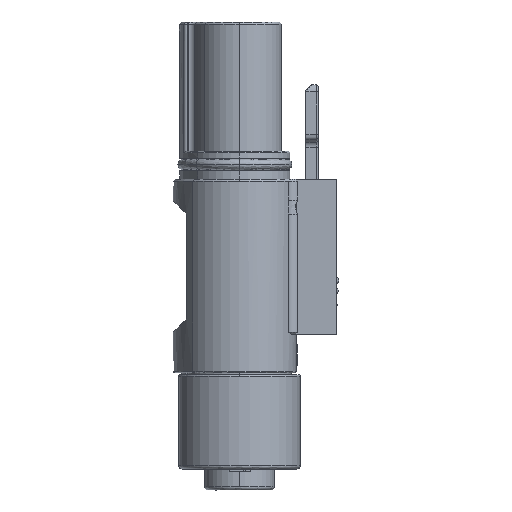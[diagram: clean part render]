
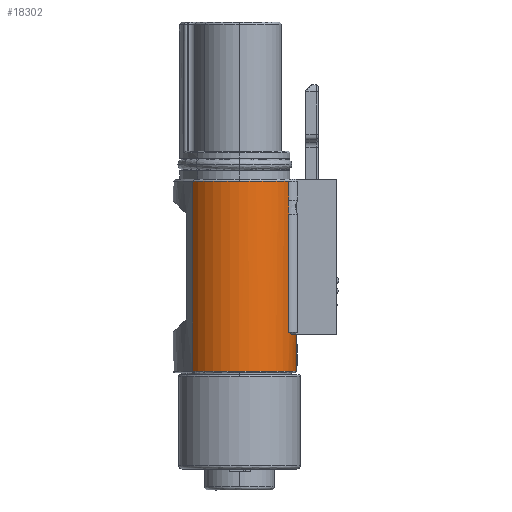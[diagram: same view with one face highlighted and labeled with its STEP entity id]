
A CAD part, left-side view. The second image highlights one B-rep face of the part: STEP entity #18302.
In plain terms, the highlighted cylindrical face has radius 8.1 mm (diameter 16.2 mm), a partial arc.
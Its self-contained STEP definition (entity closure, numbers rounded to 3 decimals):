
#7 = CARTESIAN_POINT ( 'NONE',  ( -14.41, -6., -30.9 ) ) ;
#48 = DIRECTION ( 'NONE',  ( 0., 0., -1. ) ) ;
#375 = VERTEX_POINT ( 'NONE', #16559 ) ;
#511 = CARTESIAN_POINT ( 'NONE',  ( -10.402, -7.061, -70.017 ) ) ;
#774 = ORIENTED_EDGE ( 'NONE', *, *, #18330, .F. ) ;
#917 = ORIENTED_EDGE ( 'NONE', *, *, #14548, .T. ) ;
#1698 = B_SPLINE_CURVE_WITH_KNOTS ( 'NONE', 3,
 ( #2918, #11914, #10377, #13423, #4395, #14944 ),
 .UNSPECIFIED., .F., .F.,
 ( 4, 2, 4 ),
 ( 0., 0., 0.001 ),
 .UNSPECIFIED. ) ;
#1718 = CARTESIAN_POINT ( 'NONE',  ( -10.402, 1.039, -9.3 ) ) ;
#1727 = CARTESIAN_POINT ( 'NONE',  ( -10.402, 1.039, -31.2 ) ) ;
#1925 = CARTESIAN_POINT ( 'NONE',  ( -14.378, -6.018, -13.275 ) ) ;
#1964 = EDGE_CURVE ( 'NONE', #18601, #5971, #13059, .T. ) ;
#2019 = EDGE_LOOP ( 'NONE', ( #18996, #12140, #15679, #774, #15317, #17947, #19414, #18919, #917, #16094, #5948, #11248 ) ) ;
#2348 = VERTEX_POINT ( 'NONE', #19039 ) ;
#2918 = CARTESIAN_POINT ( 'NONE',  ( -13.592, -6.407, -31.2 ) ) ;
#3226 = DIRECTION ( 'NONE',  ( 1., 0., 0. ) ) ;
#3234 = DIRECTION ( 'NONE',  ( 1., 0., 0. ) ) ;
#3265 = CIRCLE ( 'NONE', #3318, 8.1 ) ;
#3318 = AXIS2_PLACEMENT_3D ( 'NONE', #13686, #4654, #15191 ) ;
#3426 = CARTESIAN_POINT ( 'NONE',  ( -14.371, -6.022, -12.891 ) ) ;
#3738 = VERTEX_POINT ( 'NONE', #9053 ) ;
#3805 = EDGE_CURVE ( 'NONE', #7233, #17610, #3816, .T. ) ;
#3816 = LINE ( 'NONE', #7827, #11322 ) ;
#4395 = CARTESIAN_POINT ( 'NONE',  ( -14.267, -6.082, -30.9 ) ) ;
#4654 = DIRECTION ( 'NONE',  ( 0., 0., -1. ) ) ;
#4874 = AXIS2_PLACEMENT_3D ( 'NONE', #9035, #48, #10522 ) ;
#4907 = CARTESIAN_POINT ( 'NONE',  ( -14.404, -6.004, -12.286 ) ) ;
#4950 = CARTESIAN_POINT ( 'NONE',  ( -10.402, 1.039, -9.3 ) ) ;
#5025 = DIRECTION ( 'NONE',  ( 0., 0., 1. ) ) ;
#5286 = CIRCLE ( 'NONE', #14837, 8.1 ) ;
#5397 = VECTOR ( 'NONE', #12120, 1000. ) ;
#5448 = CARTESIAN_POINT ( 'NONE',  ( -14.958, 7.736, -36.5 ) ) ;
#5613 = EDGE_CURVE ( 'NONE', #2348, #5795, #13383, .T. ) ;
#5626 = AXIS2_PLACEMENT_3D ( 'NONE', #4950, #15476, #6461 ) ;
#5795 = VERTEX_POINT ( 'NONE', #6073 ) ;
#5845 = DIRECTION ( 'NONE',  ( 0., 0., -1. ) ) ;
#5870 = LINE ( 'NONE', #511, #6321 ) ;
#5948 = ORIENTED_EDGE ( 'NONE', *, *, #13630, .T. ) ;
#5971 = VERTEX_POINT ( 'NONE', #6797 ) ;
#6073 = CARTESIAN_POINT ( 'NONE',  ( -18.502, 1.039, -36.5 ) ) ;
#6321 = VECTOR ( 'NONE', #8018, 1000. ) ;
#6410 = CARTESIAN_POINT ( 'NONE',  ( -14.41, -6., -12.011 ) ) ;
#6461 = DIRECTION ( 'NONE',  ( 1., 0., 0. ) ) ;
#6720 = EDGE_CURVE ( 'NONE', #7416, #10515, #1698, .T. ) ;
#6797 = CARTESIAN_POINT ( 'NONE',  ( -14.958, 7.736, -9.3 ) ) ;
#7073 = VERTEX_POINT ( 'NONE', #5448 ) ;
#7233 = VERTEX_POINT ( 'NONE', #10494 ) ;
#7416 = VERTEX_POINT ( 'NONE', #16867 ) ;
#7464 = CIRCLE ( 'NONE', #5626, 8.1 ) ;
#7827 = CARTESIAN_POINT ( 'NONE',  ( -14.41, -6., -79.345 ) ) ;
#8018 = DIRECTION ( 'NONE',  ( 0., 0., 1. ) ) ;
#8138 = CARTESIAN_POINT ( 'NONE',  ( -14.958, 7.736, -79.345 ) ) ;
#8605 = CARTESIAN_POINT ( 'NONE',  ( -18.502, 1.039, -9.3 ) ) ;
#9035 = CARTESIAN_POINT ( 'NONE',  ( -10.402, 1.039, -36.5 ) ) ;
#9053 = CARTESIAN_POINT ( 'NONE',  ( -10.402, -7.061, -31.2 ) ) ;
#9118 = VERTEX_POINT ( 'NONE', #17170 ) ;
#9159 = CARTESIAN_POINT ( 'NONE',  ( -14.41, -6., -79.345 ) ) ;
#9385 = CARTESIAN_POINT ( 'NONE',  ( -14.41, -6., -13.989 ) ) ;
#10377 = CARTESIAN_POINT ( 'NONE',  ( -13.851, -6.292, -31.042 ) ) ;
#10494 = CARTESIAN_POINT ( 'NONE',  ( -14.41, -6., -12.011 ) ) ;
#10515 = VERTEX_POINT ( 'NONE', #7 ) ;
#10522 = DIRECTION ( 'NONE',  ( -1., 0., 0. ) ) ;
#10646 = EDGE_CURVE ( 'NONE', #17610, #18601, #7464, .T. ) ;
#10892 = CARTESIAN_POINT ( 'NONE',  ( -14.404, -6.004, -13.714 ) ) ;
#11248 = ORIENTED_EDGE ( 'NONE', *, *, #16701, .T. ) ;
#11249 = VECTOR ( 'NONE', #17118, 1000. ) ;
#11322 = VECTOR ( 'NONE', #12330, 1000. ) ;
#11914 = CARTESIAN_POINT ( 'NONE',  ( -13.72, -6.352, -31.116 ) ) ;
#11934 = AXIS2_PLACEMENT_3D ( 'NONE', #14842, #5845, #16343 ) ;
#12120 = DIRECTION ( 'NONE',  ( 0., 0., 1. ) ) ;
#12140 = ORIENTED_EDGE ( 'NONE', *, *, #10646, .T. ) ;
#12206 = DIRECTION ( 'NONE',  ( 0., 0., -1. ) ) ;
#12213 = DIRECTION ( 'NONE',  ( 0., 0., -1. ) ) ;
#12330 = DIRECTION ( 'NONE',  ( 0., 0., 1. ) ) ;
#12414 = CARTESIAN_POINT ( 'NONE',  ( -14.371, -6.022, -13.11 ) ) ;
#13059 = CIRCLE ( 'NONE', #14323, 8.1 ) ;
#13383 = CIRCLE ( 'NONE', #4874, 8.1 ) ;
#13423 = CARTESIAN_POINT ( 'NONE',  ( -14.122, -6.158, -30.934 ) ) ;
#13630 = EDGE_CURVE ( 'NONE', #10515, #9118, #16910, .T. ) ;
#13686 = CARTESIAN_POINT ( 'NONE',  ( -10.402, 1.039, -36.5 ) ) ;
#13927 = CARTESIAN_POINT ( 'NONE',  ( -14.378, -6.018, -12.726 ) ) ;
#14062 = EDGE_CURVE ( 'NONE', #5795, #7073, #3265, .T. ) ;
#14075 = B_SPLINE_CURVE_WITH_KNOTS ( 'NONE', 3,
 ( #9385, #18394, #10892, #1925, #12414, #3426, #13927, #4907, #15441, #6410 ),
 .UNSPECIFIED., .F., .F.,
 ( 4, 2, 2, 2, 4 ),
 ( 0., 0.25, 0.5, 0.75, 1. ),
 .UNSPECIFIED. ) ;
#14103 = DIRECTION ( 'NONE',  ( 1., 0., 0. ) ) ;
#14323 = AXIS2_PLACEMENT_3D ( 'NONE', #1718, #12206, #3226 ) ;
#14548 = EDGE_CURVE ( 'NONE', #375, #7416, #15214, .T. ) ;
#14837 = AXIS2_PLACEMENT_3D ( 'NONE', #1727, #12213, #3234 ) ;
#14842 = CARTESIAN_POINT ( 'NONE',  ( -10.402, 1.039, -31.2 ) ) ;
#14944 = CARTESIAN_POINT ( 'NONE',  ( -14.41, -6., -30.9 ) ) ;
#15065 = EDGE_CURVE ( 'NONE', #3738, #375, #5286, .T. ) ;
#15184 = EDGE_CURVE ( 'NONE', #2348, #3738, #5870, .T. ) ;
#15191 = DIRECTION ( 'NONE',  ( -1., 0., 0. ) ) ;
#15214 = CIRCLE ( 'NONE', #11934, 8.1 ) ;
#15247 = CYLINDRICAL_SURFACE ( 'NONE', #16651, 8.1 ) ;
#15317 = ORIENTED_EDGE ( 'NONE', *, *, #14062, .F. ) ;
#15441 = CARTESIAN_POINT ( 'NONE',  ( -14.41, -6., -12.121 ) ) ;
#15476 = DIRECTION ( 'NONE',  ( 0., 0., -1. ) ) ;
#15539 = CARTESIAN_POINT ( 'NONE',  ( -10.402, 1.039, -79.345 ) ) ;
#15679 = ORIENTED_EDGE ( 'NONE', *, *, #1964, .T. ) ;
#16094 = ORIENTED_EDGE ( 'NONE', *, *, #6720, .T. ) ;
#16220 = FACE_OUTER_BOUND ( 'NONE', #2019, .T. ) ;
#16234 = CARTESIAN_POINT ( 'NONE',  ( -14.41, -6., -9.3 ) ) ;
#16343 = DIRECTION ( 'NONE',  ( 1., 0., 0. ) ) ;
#16559 = CARTESIAN_POINT ( 'NONE',  ( -10.802, -7.051, -31.2 ) ) ;
#16651 = AXIS2_PLACEMENT_3D ( 'NONE', #15539, #5025, #14103 ) ;
#16701 = EDGE_CURVE ( 'NONE', #9118, #7233, #14075, .T. ) ;
#16867 = CARTESIAN_POINT ( 'NONE',  ( -13.592, -6.407, -31.2 ) ) ;
#16910 = LINE ( 'NONE', #9159, #5397 ) ;
#17118 = DIRECTION ( 'NONE',  ( 0., 0., 1. ) ) ;
#17170 = CARTESIAN_POINT ( 'NONE',  ( -14.41, -6., -13.989 ) ) ;
#17610 = VERTEX_POINT ( 'NONE', #16234 ) ;
#17947 = ORIENTED_EDGE ( 'NONE', *, *, #5613, .F. ) ;
#18302 = ADVANCED_FACE ( 'NONE', ( #16220 ), #15247, .T. ) ;
#18330 = EDGE_CURVE ( 'NONE', #7073, #5971, #19277, .T. ) ;
#18394 = CARTESIAN_POINT ( 'NONE',  ( -14.41, -6., -13.879 ) ) ;
#18601 = VERTEX_POINT ( 'NONE', #8605 ) ;
#18919 = ORIENTED_EDGE ( 'NONE', *, *, #15065, .T. ) ;
#18996 = ORIENTED_EDGE ( 'NONE', *, *, #3805, .T. ) ;
#19039 = CARTESIAN_POINT ( 'NONE',  ( -10.402, -7.061, -36.5 ) ) ;
#19277 = LINE ( 'NONE', #8138, #11249 ) ;
#19414 = ORIENTED_EDGE ( 'NONE', *, *, #15184, .T. ) ;
